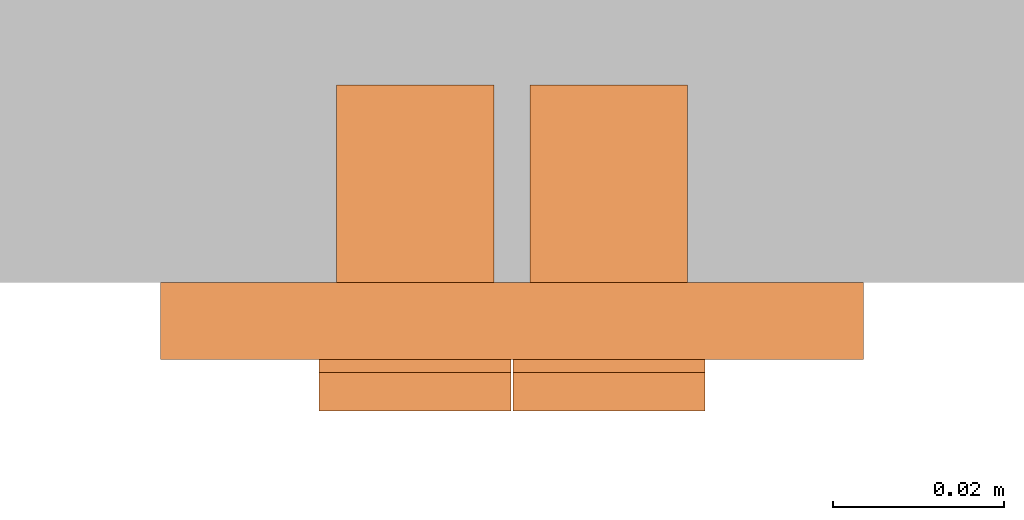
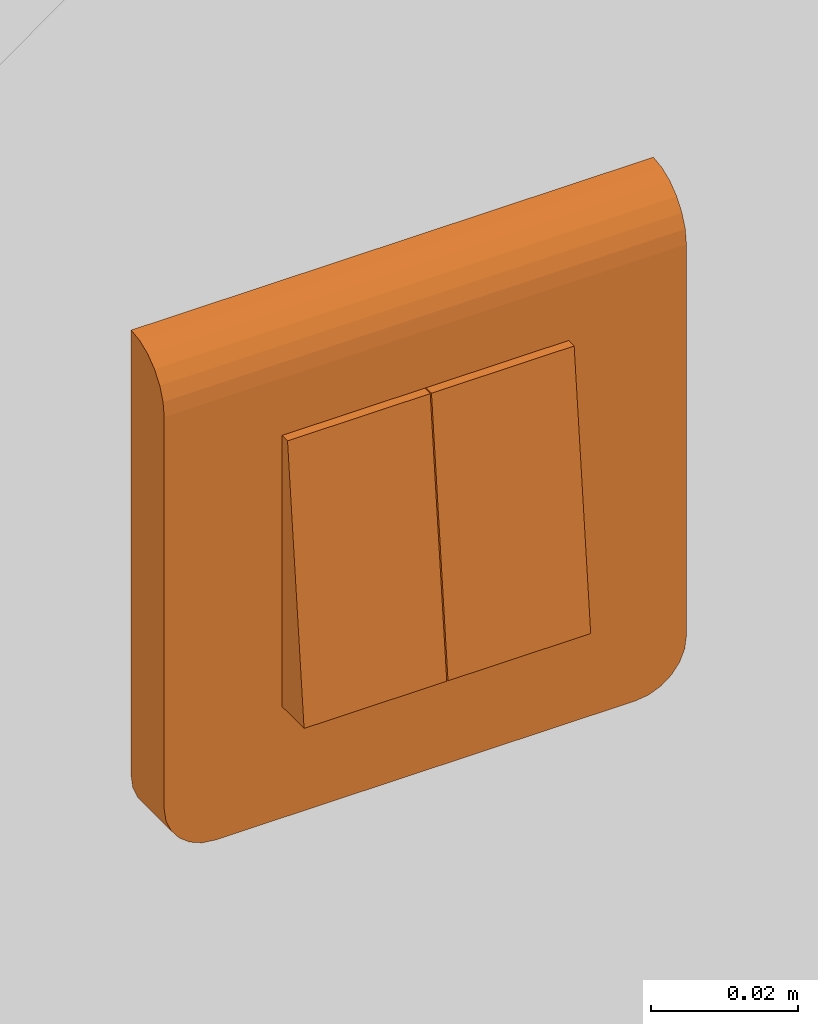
# One storey, part 135 of 197: 1 proxy.
"""IFC2X3 building model written with IfcOpenShell, lengths in metres."""

from ifc_helpers import new_model, entity, si_unit, converted_unit, direction, frame, origin, place, context, subcontext, project, spatial, faceted_brep, source, transform, mapped, material, material_list, type_object, type_shapes, element, save


model = new_model("IFC2X3")

# Units and contexts
model_context = context("Model", 3, precision=1e-05, world=origin(), true_north=direction((6.123031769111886e-17, 1.0)))
body_context = subcontext(model_context, "Body", "Model", "MODEL_VIEW")
ifc_project = project(units=[si_unit("LENGTHUNIT", "METRE"), converted_unit("PLANEANGLEUNIT", "DEGREE", entity("IfcPlaneAngleMeasure", 0.017453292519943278), si_unit("PLANEANGLEUNIT", "RADIAN"), dimensions=[0, 0, 0, 0, 0, 0, 0]), si_unit("AREAUNIT", "SQUARE_METRE")], contexts=[model_context])

# Site, building, storey
site_placement = place(None, origin())
site = spatial("IfcSite", under=ifc_project, at=site_placement, Name="Default", CompositionType="ELEMENT")
building_placement = place(site_placement, origin())
building = spatial("IfcBuilding", under=site, at=building_placement, CompositionType="ELEMENT")
storey_placement = place(building_placement, origin())
storey = spatial("IfcBuildingStorey", under=building, at=storey_placement, Name="Niveau 0", CompositionType="ELEMENT", Elevation=0.0)

# Proxy
ifc_material_1 = material(Name="BETCE-DOIGT-BLANC")
ifc_material_2 = material(Name="BETCE-ENJOLIVEUR-BLANC")
ifc_material_3 = material(Name="<Unnamed>")
ifc_material_list = material_list([ifc_material_1, ifc_material_2, ifc_material_3])
building_element_proxy_type = type_object("IfcBuildingElementProxyType", Name="Interrupteur double encastré:Va et vient+Bouton poussoir", PredefinedType="NOTDEFINED", material=ifc_material_list)
shared_shape = source(origin(), body_context, "Body", "Brep", [
    faceted_brep([(0.022499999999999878, -0.010499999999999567, 0.022499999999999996), (9.999999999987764e-05, -0.010499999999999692, 0.022500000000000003), (9.999999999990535e-05, -0.014999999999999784, -0.02250000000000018), (0.022499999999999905, -0.014999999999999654, -0.022500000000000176), (9.99999999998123e-05, 0.0, 0.022499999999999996), (0.022499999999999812, 0.0, 0.022499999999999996), (0.022499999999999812, 0.0, -0.02250000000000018), (9.99999999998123e-05, 0.0, -0.02250000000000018)], [[[0, 1, 2, 3]], [[4, 5, 6, 7]], [[5, 4, 1, 0]], [[6, 5, 0, 3]], [[7, 6, 3, 2]], [[4, 7, 2, 1]]]),
    faceted_brep([(-0.022500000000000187, 0.0, -0.022500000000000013), (-0.022500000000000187, 0.0, 0.022499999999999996), (-0.00010000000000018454, 0.0, 0.022499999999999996), (-0.00010000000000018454, 0.0, -0.022500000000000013), (-0.022500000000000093, -0.014999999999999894, -0.022500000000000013), (-0.02250000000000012, -0.010499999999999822, 0.022499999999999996), (-0.0001000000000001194, -0.010499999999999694, 0.022499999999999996), (-0.00010000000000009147, -0.01499999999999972, -0.022500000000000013)], [[[0, 1, 2, 3]], [[1, 0, 4, 5]], [[2, 1, 5, 6]], [[3, 2, 6, 7]], [[0, 3, 7, 4]], [[5, 4, 7, 6]]]),
    faceted_brep([(0.04099999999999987, -0.008999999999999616, -0.03299999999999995), (0.04099999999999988, -0.008999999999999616, 0.031999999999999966), (0.022499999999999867, -0.008999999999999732, -0.022500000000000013), (0.03299999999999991, -0.008999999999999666, -0.0409999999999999), (0.03507055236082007, -0.008999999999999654, -0.04072740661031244), (0.040727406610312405, -0.00899999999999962, -0.03507055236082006), (0.022499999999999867, -0.008999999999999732, 0.022499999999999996), (-0.022500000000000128, -0.009000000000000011, 0.022499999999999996), (-0.04100000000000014, -0.009000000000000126, 0.031999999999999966), (-0.022500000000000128, -0.009000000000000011, -0.022500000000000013), (-0.04100000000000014, -0.009000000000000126, -0.032999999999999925), (-0.033000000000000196, -0.009000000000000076, -0.04099999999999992), (-0.03507055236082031, -0.00900000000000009, -0.04072740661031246), (-0.040727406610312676, -0.009000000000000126, -0.035070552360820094), (-0.03700000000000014, -0.009000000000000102, -0.03992820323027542), (-0.039928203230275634, -0.009000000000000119, -0.036999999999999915), (-0.038656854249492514, -0.009000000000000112, -0.03865685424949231), (0.03699999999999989, -0.008999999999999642, -0.039928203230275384), (0.039928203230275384, -0.008999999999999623, -0.036999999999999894), (0.03865685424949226, -0.008999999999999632, -0.03865685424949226), (-0.04100000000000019, 0.0, -0.03299999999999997), (-0.041000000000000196, 0.0, 0.04100000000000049), (-0.02250000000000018, 0.0, 0.022499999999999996), (-0.02250000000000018, 0.0, -0.022500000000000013), (-0.033000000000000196, 0.0, -0.04099999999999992), (-0.04072740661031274, 0.0, -0.035070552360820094), (0.022499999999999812, 0.0, 0.022499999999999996), (0.04099999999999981, 0.0, 0.04099999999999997), (0.04099999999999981, 0.0, -0.0329999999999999), (0.022499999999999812, 0.0, -0.022500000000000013), (0.032999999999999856, 0.0, -0.0409999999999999), (0.04072740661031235, 0.0, -0.03507055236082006), (0.03507055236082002, 0.0, -0.04072740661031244), (0.03992820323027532, 0.0, -0.036999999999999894), (0.03699999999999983, 0.0, -0.039928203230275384), (0.0386568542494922, 0.0, -0.03865685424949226), (-0.035070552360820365, 0.0, -0.04072740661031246), (-0.0399282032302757, 0.0, -0.036999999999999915), (-0.03700000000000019, 0.0, -0.03992820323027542), (-0.03865685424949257, 0.0, -0.03865685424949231), (0.04099999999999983, -0.0023293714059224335, 0.040693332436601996), (0.04099999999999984, -0.004499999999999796, 0.039794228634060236), (0.04099999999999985, -0.006363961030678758, 0.03836396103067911), (0.040999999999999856, -0.007794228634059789, 0.03650000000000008), (0.04099999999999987, -0.008693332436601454, 0.034329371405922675), (-0.04100000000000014, -0.008693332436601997, 0.03432937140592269), (-0.04100000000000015, -0.007794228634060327, 0.036500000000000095), (-0.041000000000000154, -0.006363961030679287, 0.03836396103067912), (-0.04100000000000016, -0.00450000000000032, 0.03979422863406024), (-0.041000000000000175, -0.0023293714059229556, 0.040693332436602)], [[[0, 1, 2]], [[3, 0, 2]], [[0, 3, 4]], [[5, 0, 4]], [[2, 1, 6]], [[1, 7, 6]], [[7, 1, 8]], [[9, 7, 8]], [[10, 9, 8]], [[11, 9, 10]], [[11, 10, 12]], [[12, 10, 13]], [[14, 12, 13]], [[15, 14, 13]], [[14, 15, 16]], [[9, 11, 3]], [[2, 9, 3]], [[5, 4, 17]], [[5, 17, 18]], [[19, 18, 17]], [[20, 21, 22]], [[23, 20, 22]], [[24, 20, 23]], [[25, 20, 24]], [[21, 26, 22]], [[26, 21, 27]], [[28, 26, 27]], [[29, 26, 28]], [[30, 29, 28]], [[30, 28, 31]], [[30, 31, 32]], [[31, 33, 32]], [[33, 34, 32]], [[34, 33, 35]], [[29, 30, 24]], [[25, 24, 36]], [[23, 29, 24]], [[37, 25, 36]], [[37, 36, 38]], [[39, 37, 38]], [[1, 0, 28, 27, 40, 41, 42, 43, 44]], [[31, 28, 0, 5]], [[33, 31, 5, 18]], [[35, 33, 18, 19]], [[34, 35, 19, 17]], [[32, 34, 17, 4]], [[30, 32, 4, 3]], [[24, 30, 3, 11]], [[36, 24, 11, 12]], [[38, 36, 12, 14]], [[39, 38, 14, 16]], [[37, 39, 16, 15]], [[25, 37, 15, 13]], [[20, 25, 13, 10]], [[21, 20, 10, 8, 45, 46, 47, 48, 49]], [[44, 43, 46, 45]], [[1, 44, 45, 8]], [[43, 42, 47, 46]], [[49, 48, 41, 40]], [[21, 49, 40, 27]], [[42, 41, 48, 47]], [[23, 22, 7, 9]], [[29, 23, 9, 2]], [[26, 29, 2, 6]], [[22, 26, 6, 7]]]),
    faceted_brep([(-0.020500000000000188, 0.0, 0.020499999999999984), (-0.020500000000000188, 0.0, -0.020500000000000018), (-0.0021000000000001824, 0.0, -0.020500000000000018), (-0.0021000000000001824, 0.0, 0.020499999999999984), (-0.02050000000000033, 0.023000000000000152, 0.020499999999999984), (-0.0021000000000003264, 0.023000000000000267, 0.020499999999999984), (-0.0021000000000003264, 0.023000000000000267, -0.020500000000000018), (-0.02050000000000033, 0.023000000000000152, -0.020500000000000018)], [[[0, 1, 2, 3]], [[4, 5, 6, 7]], [[1, 0, 4, 7]], [[2, 1, 7, 6]], [[3, 2, 6, 5]], [[0, 3, 5, 4]]]),
    faceted_brep([(0.002099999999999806, 0.0, -0.02050000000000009), (0.002099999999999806, 0.0, 0.020499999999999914), (0.002099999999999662, 0.02300000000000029, 0.020499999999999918), (0.002099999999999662, 0.02300000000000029, -0.020500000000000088), (0.020499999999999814, 0.0, -0.020500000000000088), (0.02049999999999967, 0.023000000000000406, -0.020500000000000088), (0.020499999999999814, 0.0, 0.020499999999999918), (0.02049999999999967, 0.023000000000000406, 0.020499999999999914)], [[[0, 1, 2, 3]], [[4, 0, 3, 5]], [[6, 4, 5, 7]], [[1, 6, 7, 2]], [[2, 7, 5, 3]], [[1, 0, 4, 6]]]),
])
type_shapes(building_element_proxy_type, [shared_shape])
proxy_placement = place(storey_placement, frame((-407.29644850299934, 122.781355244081, 1.1)))
element("IfcBuildingElementProxy", 1, at=proxy_placement, inside=storey, type_object=building_element_proxy_type, material=ifc_material_list, Name="Interrupteur double encastré:Va et vient+Bouton poussoir", ObjectType="Interrupteur double encastré:Va et vient+Bouton poussoir", context=body_context, shape_type="MappedRepresentation", body=[
    mapped(shared_shape, transform((0.0, 0.0, 0.0), scale=1.0)),
])

save(model, "model.ifc")
